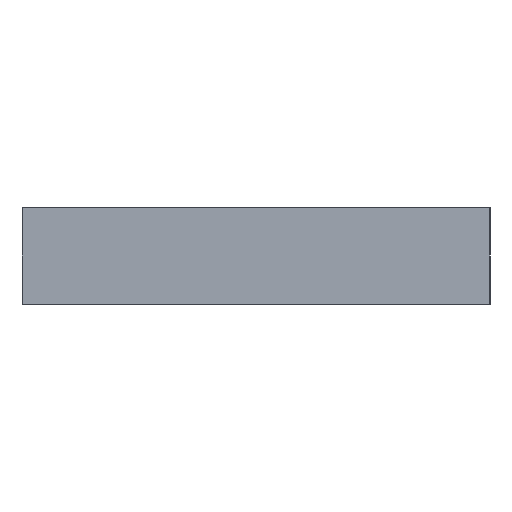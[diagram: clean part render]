
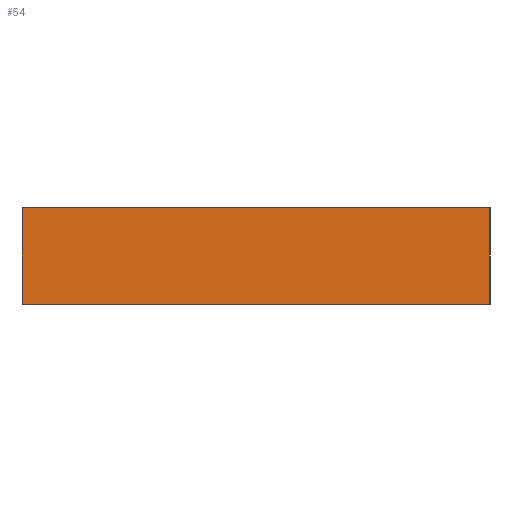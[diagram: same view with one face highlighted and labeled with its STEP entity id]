
A CAD part, left-side view. The second image highlights one B-rep face of the part: STEP entity #54.
In plain terms, the highlighted planar face has unit normal (-1, 0, 0).
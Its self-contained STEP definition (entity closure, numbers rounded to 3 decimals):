
#54 = ADVANCED_FACE( '', ( #116 ), #117, .F. );
#116 = FACE_OUTER_BOUND( '', #185, .T. );
#117 = PLANE( '', #186 );
#185 = EDGE_LOOP( '', ( #266, #267, #268, #269 ) );
#186 = AXIS2_PLACEMENT_3D( '', #270, #271, #272 );
#266 = ORIENTED_EDGE( '', *, *, #384, .T. );
#267 = ORIENTED_EDGE( '', *, *, #385, .F. );
#268 = ORIENTED_EDGE( '', *, *, #386, .F. );
#269 = ORIENTED_EDGE( '', *, *, #368, .T. );
#270 = CARTESIAN_POINT( '', ( -28., 0., 3.5 ) );
#271 = DIRECTION( '', ( 1., 0., 0. ) );
#272 = DIRECTION( '', ( 0., 0., -1. ) );
#368 = EDGE_CURVE( '', #423, #421, #424, .T. );
#384 = EDGE_CURVE( '', #421, #449, #450, .T. );
#385 = EDGE_CURVE( '', #451, #449, #452, .T. );
#386 = EDGE_CURVE( '', #423, #451, #453, .T. );
#421 = VERTEX_POINT( '', #495 );
#423 = VERTEX_POINT( '', #498 );
#424 = LINE( '', #499, #500 );
#449 = VERTEX_POINT( '', #531 );
#450 = LINE( '', #532, #533 );
#451 = VERTEX_POINT( '', #534 );
#452 = LINE( '', #535, #536 );
#453 = LINE( '', #537, #538 );
#495 = CARTESIAN_POINT( '', ( -28., 0., -3.5 ) );
#498 = CARTESIAN_POINT( '', ( -28., 0., 3.5 ) );
#499 = CARTESIAN_POINT( '', ( -28., 0., 3.5 ) );
#500 = VECTOR( '', #594, 1000. );
#531 = CARTESIAN_POINT( '', ( -28., -34., -3.5 ) );
#532 = CARTESIAN_POINT( '', ( -28., 0., -3.5 ) );
#533 = VECTOR( '', #613, 1000. );
#534 = CARTESIAN_POINT( '', ( -28., -34., 3.5 ) );
#535 = CARTESIAN_POINT( '', ( -28., -34., 3.5 ) );
#536 = VECTOR( '', #614, 1000. );
#537 = CARTESIAN_POINT( '', ( -28., 0., 3.5 ) );
#538 = VECTOR( '', #615, 1000. );
#594 = DIRECTION( '', ( 0., 0., -1. ) );
#613 = DIRECTION( '', ( 0., -1., 0. ) );
#614 = DIRECTION( '', ( 0., 0., -1. ) );
#615 = DIRECTION( '', ( 0., -1., 0. ) );
